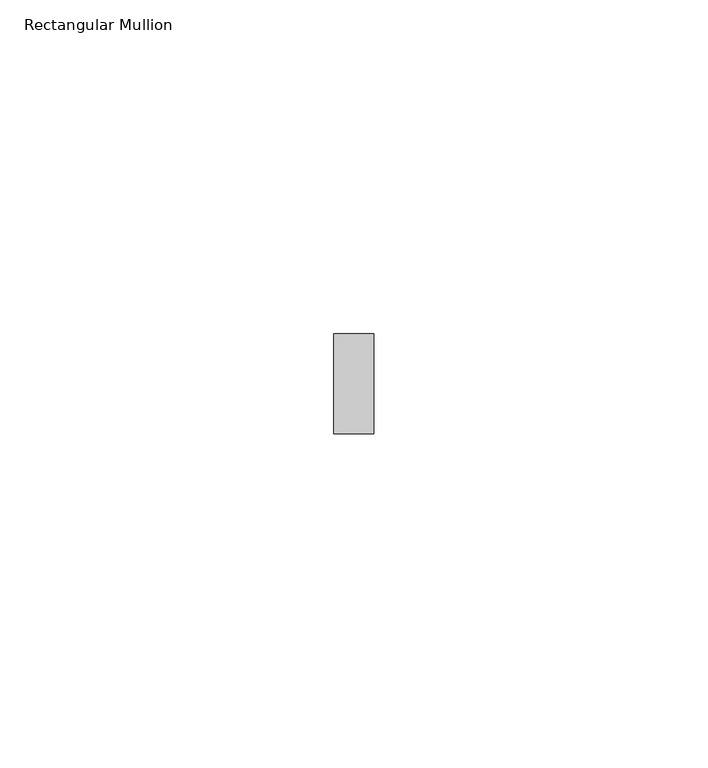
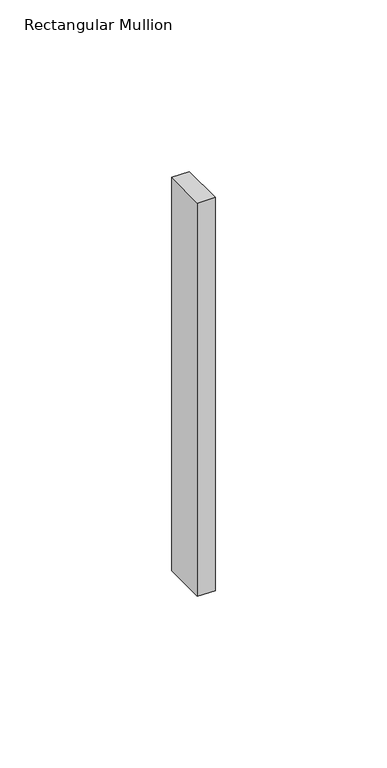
"""IFC4 building model written with IfcOpenShell, lengths in millimetres: member geometry, Rectangular Mullion : ARQ_HERR_15X6mm."""

from ifc_helpers import new_model, si_unit, frame, origin, place, context, project, spatial, polyline, outline, extrude, source, transform, mapped, element, save


def rectangular_mullion_b6f05ad7(model_context):
    return source(origin(), model_context, "Body", "SweptSolid", [
        extrude(outline(polyline([(0.0, 7.5), (0.0, -7.5), (-6.0, -7.5), (-6.0, 7.5), (0.0, 7.5)])), frame((0.0, 0.0, -140.0), z_axis=(0.0, 0.0, 1.0), x_axis=(1.0, 0.0, 0.0)), (0.0, 0.0, 1.0), 140.0),
    ])


if __name__ == "__main__":
    model = new_model("IFC4")
    model_context = context("Model", 3, world=origin())
    ifc_project = project(units=[si_unit("LENGTHUNIT", "METRE", prefix="MILLI")], contexts=[model_context])
    site = spatial("IfcSite", under=ifc_project)
    building = spatial("IfcBuilding", under=site)
    placement = place(None, origin())
    rectangular_mullion_shape = rectangular_mullion_b6f05ad7(model_context)
    element("IfcMember", 1, ObjectType="Rectangular Mullion : ARQ_HERR_15X6mm", at=placement, inside=building, context=model_context, shape_type="MappedRepresentation", body=[
        mapped(rectangular_mullion_shape, transform((0.0, 0.0, 0.0), x_axis=(1.0, 0.0, 0.0), y_axis=(0.0, 1.0, 0.0), z_axis=(0.0, 0.0, 1.0))),
    ])
    save(model, "model.ifc")
